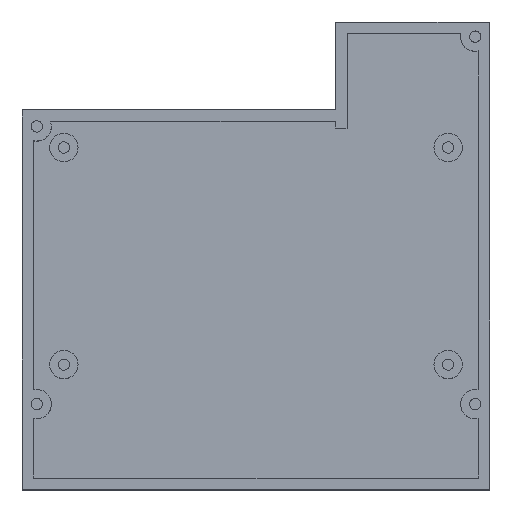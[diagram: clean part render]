
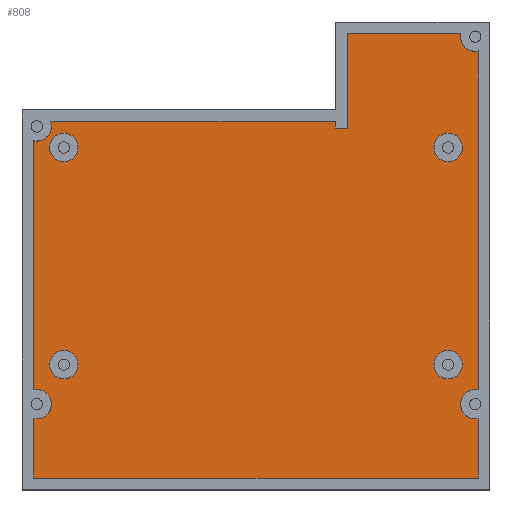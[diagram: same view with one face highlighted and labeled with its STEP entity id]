
A CAD part, top view. The second image highlights one B-rep face of the part: STEP entity #808.
In plain terms, the highlighted planar face has unit normal (0, 0, 1).
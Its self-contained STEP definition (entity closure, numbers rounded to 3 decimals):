
#21 = EDGE_CURVE('',#22,#24,#26,.T.);
#22 = VERTEX_POINT('',#23);
#23 = CARTESIAN_POINT('',(70.8,82.071,2.8));
#24 = VERTEX_POINT('',#25);
#25 = CARTESIAN_POINT('',(70.8,67.8,2.8));
#26 = LINE('',#27,#28);
#27 = CARTESIAN_POINT('',(70.8,156.,2.8));
#28 = VECTOR('',#29,1.);
#29 = DIRECTION('',(-0.,-1.,0.));
#61 = EDGE_CURVE('',#24,#62,#64,.T.);
#62 = VERTEX_POINT('',#63);
#63 = CARTESIAN_POINT('',(177.2,67.8,2.8));
#64 = LINE('',#65,#66);
#65 = CARTESIAN_POINT('',(68.,67.8,2.8));
#66 = VECTOR('',#67,1.);
#67 = DIRECTION('',(1.,0.,-0.));
#568 = EDGE_CURVE('',#62,#569,#571,.T.);
#569 = VERTEX_POINT('',#570);
#570 = CARTESIAN_POINT('',(177.2,82.071,2.8));
#571 = LINE('',#572,#573);
#572 = CARTESIAN_POINT('',(177.2,65.,2.8));
#573 = VECTOR('',#574,1.);
#574 = DIRECTION('',(0.,1.,0.));
#695 = EDGE_CURVE('',#696,#698,#700,.T.);
#696 = VERTEX_POINT('',#697);
#697 = CARTESIAN_POINT('',(143.,153.2,2.8));
#698 = VERTEX_POINT('',#699);
#699 = CARTESIAN_POINT('',(74.788,153.2,2.8));
#700 = LINE('',#701,#702);
#701 = CARTESIAN_POINT('',(143.,153.2,2.8));
#702 = VECTOR('',#703,1.);
#703 = DIRECTION('',(-1.,0.,0.));
#741 = EDGE_CURVE('',#742,#744,#746,.T.);
#742 = VERTEX_POINT('',#743);
#743 = CARTESIAN_POINT('',(70.8,148.571,2.8));
#744 = VERTEX_POINT('',#745);
#745 = CARTESIAN_POINT('',(70.8,88.929,2.8));
#746 = LINE('',#747,#748);
#747 = CARTESIAN_POINT('',(70.8,156.,2.8));
#748 = VECTOR('',#749,1.);
#749 = DIRECTION('',(-0.,-1.,0.));
#808 = ADVANCED_FACE('',(#809,#904,#915,#926,#937),#948,.F.);
#809 = FACE_BOUND('',#810,.F.);
#810 = EDGE_LOOP('',(#811,#812,#813,#822,#829,#830,#839,#846,#847,#855,
    #863,#871,#879,#888,#896,#903));
#811 = ORIENTED_EDGE('',*,*,#61,.F.);
#812 = ORIENTED_EDGE('',*,*,#21,.F.);
#813 = ORIENTED_EDGE('',*,*,#814,.T.);
#814 = EDGE_CURVE('',#22,#815,#817,.T.);
#815 = VERTEX_POINT('',#816);
#816 = CARTESIAN_POINT('',(75.,85.5,2.8));
#817 = CIRCLE('',#818,3.5);
#818 = AXIS2_PLACEMENT_3D('',#819,#820,#821);
#819 = CARTESIAN_POINT('',(71.5,85.5,2.8));
#820 = DIRECTION('',(0.,0.,1.));
#821 = DIRECTION('',(1.,0.,-0.));
#822 = ORIENTED_EDGE('',*,*,#823,.T.);
#823 = EDGE_CURVE('',#815,#744,#824,.T.);
#824 = CIRCLE('',#825,3.5);
#825 = AXIS2_PLACEMENT_3D('',#826,#827,#828);
#826 = CARTESIAN_POINT('',(71.5,85.5,2.8));
#827 = DIRECTION('',(0.,0.,1.));
#828 = DIRECTION('',(1.,0.,-0.));
#829 = ORIENTED_EDGE('',*,*,#741,.F.);
#830 = ORIENTED_EDGE('',*,*,#831,.T.);
#831 = EDGE_CURVE('',#742,#832,#834,.T.);
#832 = VERTEX_POINT('',#833);
#833 = CARTESIAN_POINT('',(75.,152.,2.8));
#834 = CIRCLE('',#835,3.5);
#835 = AXIS2_PLACEMENT_3D('',#836,#837,#838);
#836 = CARTESIAN_POINT('',(71.5,152.,2.8));
#837 = DIRECTION('',(0.,0.,1.));
#838 = DIRECTION('',(1.,0.,-0.));
#839 = ORIENTED_EDGE('',*,*,#840,.T.);
#840 = EDGE_CURVE('',#832,#698,#841,.T.);
#841 = CIRCLE('',#842,3.5);
#842 = AXIS2_PLACEMENT_3D('',#843,#844,#845);
#843 = CARTESIAN_POINT('',(71.5,152.,2.8));
#844 = DIRECTION('',(0.,0.,1.));
#845 = DIRECTION('',(1.,0.,-0.));
#846 = ORIENTED_EDGE('',*,*,#695,.F.);
#847 = ORIENTED_EDGE('',*,*,#848,.F.);
#848 = EDGE_CURVE('',#849,#696,#851,.T.);
#849 = VERTEX_POINT('',#850);
#850 = CARTESIAN_POINT('',(143.,151.6,2.8));
#851 = LINE('',#852,#853);
#852 = CARTESIAN_POINT('',(143.,151.6,2.8));
#853 = VECTOR('',#854,1.);
#854 = DIRECTION('',(-0.,1.,0.));
#855 = ORIENTED_EDGE('',*,*,#856,.T.);
#856 = EDGE_CURVE('',#849,#857,#859,.T.);
#857 = VERTEX_POINT('',#858);
#858 = CARTESIAN_POINT('',(145.8,151.6,2.8));
#859 = LINE('',#860,#861);
#860 = CARTESIAN_POINT('',(143.,151.6,2.8));
#861 = VECTOR('',#862,1.);
#862 = DIRECTION('',(1.,0.,-0.));
#863 = ORIENTED_EDGE('',*,*,#864,.F.);
#864 = EDGE_CURVE('',#865,#857,#867,.T.);
#865 = VERTEX_POINT('',#866);
#866 = CARTESIAN_POINT('',(145.8,174.2,2.8));
#867 = LINE('',#868,#869);
#868 = CARTESIAN_POINT('',(145.8,177.,2.8));
#869 = VECTOR('',#870,1.);
#870 = DIRECTION('',(-0.,-1.,0.));
#871 = ORIENTED_EDGE('',*,*,#872,.F.);
#872 = EDGE_CURVE('',#873,#865,#875,.T.);
#873 = VERTEX_POINT('',#874);
#874 = CARTESIAN_POINT('',(173.071,174.2,2.8));
#875 = LINE('',#876,#877);
#876 = CARTESIAN_POINT('',(180.,174.2,2.8));
#877 = VECTOR('',#878,1.);
#878 = DIRECTION('',(-1.,0.,0.));
#879 = ORIENTED_EDGE('',*,*,#880,.T.);
#880 = EDGE_CURVE('',#873,#881,#883,.T.);
#881 = VERTEX_POINT('',#882);
#882 = CARTESIAN_POINT('',(177.2,170.071,2.8));
#883 = CIRCLE('',#884,3.5);
#884 = AXIS2_PLACEMENT_3D('',#885,#886,#887);
#885 = CARTESIAN_POINT('',(176.5,173.5,2.8));
#886 = DIRECTION('',(0.,0.,1.));
#887 = DIRECTION('',(1.,0.,-0.));
#888 = ORIENTED_EDGE('',*,*,#889,.F.);
#889 = EDGE_CURVE('',#890,#881,#892,.T.);
#890 = VERTEX_POINT('',#891);
#891 = CARTESIAN_POINT('',(177.2,88.929,2.8));
#892 = LINE('',#893,#894);
#893 = CARTESIAN_POINT('',(177.2,65.,2.8));
#894 = VECTOR('',#895,1.);
#895 = DIRECTION('',(0.,1.,0.));
#896 = ORIENTED_EDGE('',*,*,#897,.T.);
#897 = EDGE_CURVE('',#890,#569,#898,.T.);
#898 = CIRCLE('',#899,3.5);
#899 = AXIS2_PLACEMENT_3D('',#900,#901,#902);
#900 = CARTESIAN_POINT('',(176.5,85.5,2.8));
#901 = DIRECTION('',(0.,0.,1.));
#902 = DIRECTION('',(1.,0.,-0.));
#903 = ORIENTED_EDGE('',*,*,#568,.F.);
#904 = FACE_BOUND('',#905,.F.);
#905 = EDGE_LOOP('',(#906));
#906 = ORIENTED_EDGE('',*,*,#907,.T.);
#907 = EDGE_CURVE('',#908,#908,#910,.T.);
#908 = VERTEX_POINT('',#909);
#909 = CARTESIAN_POINT('',(173.4,95.,2.8));
#910 = CIRCLE('',#911,3.4);
#911 = AXIS2_PLACEMENT_3D('',#912,#913,#914);
#912 = CARTESIAN_POINT('',(170.,95.,2.8));
#913 = DIRECTION('',(0.,0.,1.));
#914 = DIRECTION('',(1.,0.,-0.));
#915 = FACE_BOUND('',#916,.F.);
#916 = EDGE_LOOP('',(#917));
#917 = ORIENTED_EDGE('',*,*,#918,.T.);
#918 = EDGE_CURVE('',#919,#919,#921,.T.);
#919 = VERTEX_POINT('',#920);
#920 = CARTESIAN_POINT('',(81.4,95.,2.8));
#921 = CIRCLE('',#922,3.4);
#922 = AXIS2_PLACEMENT_3D('',#923,#924,#925);
#923 = CARTESIAN_POINT('',(78.,95.,2.8));
#924 = DIRECTION('',(0.,0.,1.));
#925 = DIRECTION('',(1.,0.,-0.));
#926 = FACE_BOUND('',#927,.F.);
#927 = EDGE_LOOP('',(#928));
#928 = ORIENTED_EDGE('',*,*,#929,.T.);
#929 = EDGE_CURVE('',#930,#930,#932,.T.);
#930 = VERTEX_POINT('',#931);
#931 = CARTESIAN_POINT('',(173.4,147.,2.8));
#932 = CIRCLE('',#933,3.4);
#933 = AXIS2_PLACEMENT_3D('',#934,#935,#936);
#934 = CARTESIAN_POINT('',(170.,147.,2.8));
#935 = DIRECTION('',(0.,0.,1.));
#936 = DIRECTION('',(1.,0.,-0.));
#937 = FACE_BOUND('',#938,.F.);
#938 = EDGE_LOOP('',(#939));
#939 = ORIENTED_EDGE('',*,*,#940,.T.);
#940 = EDGE_CURVE('',#941,#941,#943,.T.);
#941 = VERTEX_POINT('',#942);
#942 = CARTESIAN_POINT('',(81.4,147.,2.8));
#943 = CIRCLE('',#944,3.4);
#944 = AXIS2_PLACEMENT_3D('',#945,#946,#947);
#945 = CARTESIAN_POINT('',(78.,147.,2.8));
#946 = DIRECTION('',(0.,0.,1.));
#947 = DIRECTION('',(1.,0.,-0.));
#948 = PLANE('',#949);
#949 = AXIS2_PLACEMENT_3D('',#950,#951,#952);
#950 = CARTESIAN_POINT('',(127.646,117.195,2.8));
#951 = DIRECTION('',(-0.,-0.,-1.));
#952 = DIRECTION('',(-1.,0.,0.));
